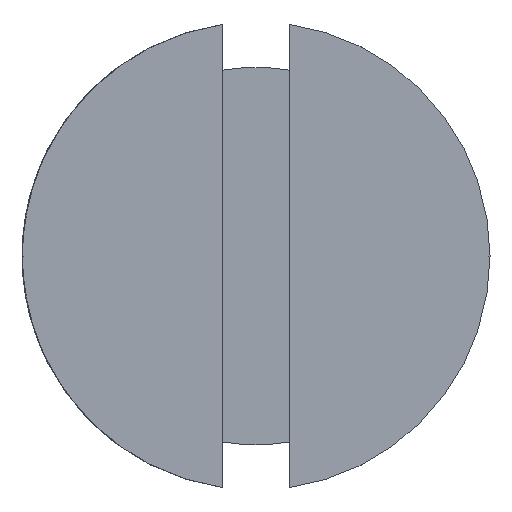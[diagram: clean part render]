
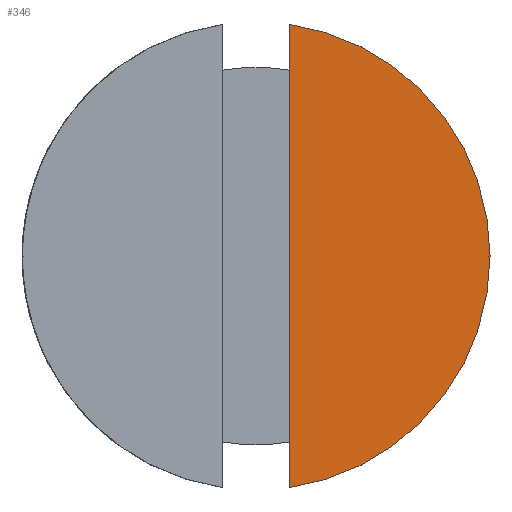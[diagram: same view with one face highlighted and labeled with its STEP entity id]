
A CAD part, top view. The second image highlights one B-rep face of the part: STEP entity #346.
In plain terms, the highlighted planar face has unit normal (0, 0, 1).
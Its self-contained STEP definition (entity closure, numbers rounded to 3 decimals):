
#37 = PLANE ( 'NONE',  #108 ) ;
#54 = VERTEX_POINT ( 'NONE', #511 ) ;
#64 = FACE_OUTER_BOUND ( 'NONE', #483, .T. ) ;
#75 = CARTESIAN_POINT ( 'NONE',  ( 0.4, 2.771, 0. ) ) ;
#108 = AXIS2_PLACEMENT_3D ( 'NONE', #454, #509, #400 ) ;
#119 = CARTESIAN_POINT ( 'NONE',  ( 0., 0., 0. ) ) ;
#121 = CARTESIAN_POINT ( 'NONE',  ( 0., 0., 0. ) ) ;
#129 = DIRECTION ( 'NONE',  ( 1., 0., 0. ) ) ;
#134 = VERTEX_POINT ( 'NONE', #161 ) ;
#135 = ORIENTED_EDGE ( 'NONE', *, *, #148, .T. ) ;
#144 = CARTESIAN_POINT ( 'NONE',  ( 0.4, 0., 0. ) ) ;
#148 = EDGE_CURVE ( 'NONE', #134, #270, #424, .T. ) ;
#161 = CARTESIAN_POINT ( 'NONE',  ( 2.8, 0., 0. ) ) ;
#173 = DIRECTION ( 'NONE',  ( 0., -1., 0. ) ) ;
#177 = VECTOR ( 'NONE', #173, 1000. ) ;
#210 = DIRECTION ( 'NONE',  ( 0., 0., 1. ) ) ;
#219 = AXIS2_PLACEMENT_3D ( 'NONE', #119, #210, #323 ) ;
#266 = CIRCLE ( 'NONE', #219, 2.8 ) ;
#270 = VERTEX_POINT ( 'NONE', #75 ) ;
#323 = DIRECTION ( 'NONE',  ( 1., 0., 0. ) ) ;
#346 = ADVANCED_FACE ( 'NONE', ( #64 ), #37, .F. ) ;
#384 = EDGE_CURVE ( 'NONE', #54, #134, #266, .T. ) ;
#400 = DIRECTION ( 'NONE',  ( -1., 0., 0. ) ) ;
#424 = CIRCLE ( 'NONE', #553, 2.8 ) ;
#440 = ORIENTED_EDGE ( 'NONE', *, *, #384, .T. ) ;
#454 = CARTESIAN_POINT ( 'NONE',  ( 0., 0., 0. ) ) ;
#481 = ORIENTED_EDGE ( 'NONE', *, *, #513, .T. ) ;
#483 = EDGE_LOOP ( 'NONE', ( #440, #135, #481 ) ) ;
#509 = DIRECTION ( 'NONE',  ( 0., 0., -1. ) ) ;
#511 = CARTESIAN_POINT ( 'NONE',  ( 0.4, -2.771, 0. ) ) ;
#513 = EDGE_CURVE ( 'NONE', #270, #54, #519, .T. ) ;
#519 = LINE ( 'NONE', #144, #177 ) ;
#520 = DIRECTION ( 'NONE',  ( 0., 0., 1. ) ) ;
#553 = AXIS2_PLACEMENT_3D ( 'NONE', #121, #520, #129 ) ;
